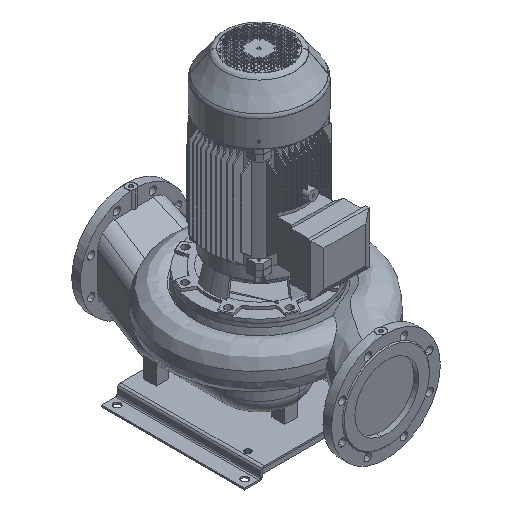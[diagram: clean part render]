
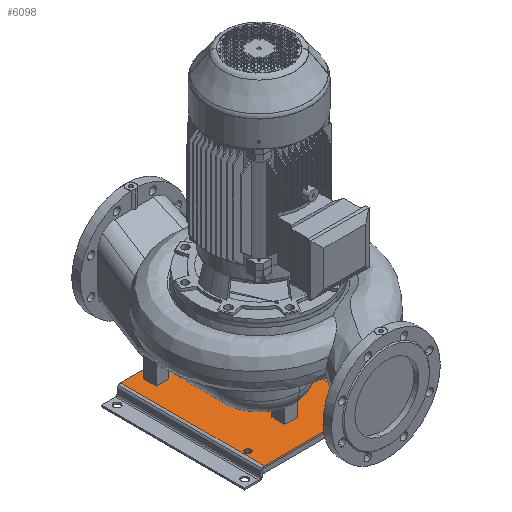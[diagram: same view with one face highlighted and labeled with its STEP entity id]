
A CAD part, isometric view. The second image highlights one B-rep face of the part: STEP entity #6098.
In plain terms, the highlighted planar face has unit normal (0, 0, 1) as drawn and (0, 1, 0) by its records, which use the part's own axes.
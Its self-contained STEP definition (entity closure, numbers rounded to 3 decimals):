
#6098=ADVANCED_FACE('',(#16713,#16714,#16715,#16716,#16717,#16718),#16719,.T.);
#6142=EDGE_CURVE('',#16793,#16794,#16795,.T.);
#16713=FACE_BOUND('',#33698,.T.);
#16714=FACE_BOUND('',#33699,.T.);
#16715=FACE_BOUND('',#33700,.T.);
#16716=FACE_BOUND('',#33701,.T.);
#16717=FACE_BOUND('',#33702,.T.);
#16718=FACE_OUTER_BOUND('',#33703,.T.);
#16719=PLANE('',#33704);
#16793=VERTEX_POINT('',#33787);
#16794=VERTEX_POINT('',#33788);
#16795=LINE('',#33789,#33790);
#33698=EDGE_LOOP('',(#57529,#57530));
#33699=EDGE_LOOP('',(#57531,#57532));
#33700=EDGE_LOOP('',(#57533,#57534));
#33701=EDGE_LOOP('',(#57535,#57536));
#33702=EDGE_LOOP('',(#57537,#57538));
#33703=EDGE_LOOP('',(#57539,#57540,#57541,#57542));
#33704=AXIS2_PLACEMENT_3D('',#57543,#57544,#57545);
#33787=CARTESIAN_POINT('',(389.0,35.,0.0));
#33788=CARTESIAN_POINT('',(61.0,35.0,0.0));
#33789=CARTESIAN_POINT('',(99.43,35.0,0.0));
#33790=VECTOR('',#57744,1.0);
#57529=ORIENTED_EDGE('',*,*,#77678,.T.);
#57530=ORIENTED_EDGE('',*,*,#77691,.T.);
#57531=ORIENTED_EDGE('',*,*,#77673,.T.);
#57532=ORIENTED_EDGE('',*,*,#77694,.T.);
#57533=ORIENTED_EDGE('',*,*,#77663,.T.);
#57534=ORIENTED_EDGE('',*,*,#77700,.T.);
#57535=ORIENTED_EDGE('',*,*,#77653,.T.);
#57536=ORIENTED_EDGE('',*,*,#77706,.T.);
#57537=ORIENTED_EDGE('',*,*,#77643,.T.);
#57538=ORIENTED_EDGE('',*,*,#77712,.T.);
#57539=ORIENTED_EDGE('',*,*,#77728,.F.);
#57540=ORIENTED_EDGE('',*,*,#77729,.T.);
#57541=ORIENTED_EDGE('',*,*,#77624,.F.);
#57542=ORIENTED_EDGE('',*,*,#6142,.T.);
#57543=CARTESIAN_POINT('',(249.715,35.0,0.0));
#57544=DIRECTION('',(0.,1.0,0.0));
#57545=DIRECTION('',(-1.0,0.,-0.0));
#57744=DIRECTION('',(-1.0,0.,0.0));
#77624=EDGE_CURVE('',#16793,#81800,#81801,.T.);
#77643=EDGE_CURVE('',#81831,#81828,#81832,.T.);
#77653=EDGE_CURVE('',#81849,#81846,#81850,.T.);
#77663=EDGE_CURVE('',#81867,#81864,#81868,.T.);
#77673=EDGE_CURVE('',#81885,#81882,#81886,.T.);
#77678=EDGE_CURVE('',#81894,#81891,#81895,.T.);
#77691=EDGE_CURVE('',#81891,#81894,#81913,.T.);
#77694=EDGE_CURVE('',#81882,#81885,#81916,.T.);
#77700=EDGE_CURVE('',#81864,#81867,#81922,.T.);
#77706=EDGE_CURVE('',#81846,#81849,#81928,.T.);
#77712=EDGE_CURVE('',#81828,#81831,#81934,.T.);
#77728=EDGE_CURVE('',#81956,#16794,#81957,.T.);
#77729=EDGE_CURVE('',#81956,#81800,#81958,.T.);
#81800=VERTEX_POINT('',#88485);
#81801=LINE('',#88486,#88487);
#81828=VERTEX_POINT('',#88520);
#81831=VERTEX_POINT('',#88524);
#81832=CIRCLE('',#88525,9.5);
#81846=VERTEX_POINT('',#88542);
#81849=VERTEX_POINT('',#88546);
#81850=CIRCLE('',#88547,9.5);
#81864=VERTEX_POINT('',#88564);
#81867=VERTEX_POINT('',#88568);
#81868=CIRCLE('',#88569,9.5);
#81882=VERTEX_POINT('',#88586);
#81885=VERTEX_POINT('',#88590);
#81886=CIRCLE('',#88591,9.5);
#81891=VERTEX_POINT('',#88597);
#81894=VERTEX_POINT('',#88601);
#81895=CIRCLE('',#88602,9.5);
#81913=CIRCLE('',#88623,9.5);
#81916=CIRCLE('',#88626,9.5);
#81922=CIRCLE('',#88632,9.5);
#81928=CIRCLE('',#88638,9.5);
#81934=CIRCLE('',#88644,9.5);
#81956=VERTEX_POINT('',#88676);
#81957=LINE('',#88677,#88678);
#81958=LINE('',#88679,#88680);
#88485=CARTESIAN_POINT('',(389.0,35.0,450.0));
#88486=CARTESIAN_POINT('',(389.0,35.0,0.0));
#88487=VECTOR('',#99197,1.0);
#88520=CARTESIAN_POINT('',(135.402,35.0,39.727));
#88524=CARTESIAN_POINT('',(119.598,35.0,50.273));
#88525=AXIS2_PLACEMENT_3D('',#99226,#99227,#99228);
#88542=CARTESIAN_POINT('',(375.0,35.0,375.5));
#88546=CARTESIAN_POINT('',(375.0,35.0,394.5));
#88547=AXIS2_PLACEMENT_3D('',#99242,#99243,#99244);
#88564=CARTESIAN_POINT('',(75.,35.0,375.5));
#88568=CARTESIAN_POINT('',(75.,35.0,394.5));
#88569=AXIS2_PLACEMENT_3D('',#99258,#99259,#99260);
#88586=CARTESIAN_POINT('',(225.0,35.0,359.5));
#88590=CARTESIAN_POINT('',(225.0,35.0,340.5));
#88591=AXIS2_PLACEMENT_3D('',#99274,#99275,#99276);
#88597=CARTESIAN_POINT('',(314.598,35.0,39.727));
#88601=CARTESIAN_POINT('',(330.402,35.0,50.273));
#88602=AXIS2_PLACEMENT_3D('',#99282,#99283,#99284);
#88623=AXIS2_PLACEMENT_3D('',#99306,#99307,#99308);
#88626=AXIS2_PLACEMENT_3D('',#99312,#99313,#99314);
#88632=AXIS2_PLACEMENT_3D('',#99324,#99325,#99326);
#88638=AXIS2_PLACEMENT_3D('',#99336,#99337,#99338);
#88644=AXIS2_PLACEMENT_3D('',#99348,#99349,#99350);
#88676=CARTESIAN_POINT('',(61.0,35.0,450.0));
#88677=CARTESIAN_POINT('',(61.0,35.0,0.0));
#88678=VECTOR('',#99361,1.0);
#88679=CARTESIAN_POINT('',(99.43,35.0,450.0));
#88680=VECTOR('',#99362,1.0);
#99197=DIRECTION('',(0.0,0.0,1.0));
#99226=CARTESIAN_POINT('',(127.5,35.0,45.0));
#99227=DIRECTION('',(0.,-1.0,0.0));
#99228=DIRECTION('',(0.832,0.,-0.555));
#99242=CARTESIAN_POINT('',(375.0,35.0,385.0));
#99243=DIRECTION('',(0.,-1.0,0.0));
#99244=DIRECTION('',(0.0,0.0,-1.0));
#99258=CARTESIAN_POINT('',(75.,35.0,385.0));
#99259=DIRECTION('',(0.,-1.0,0.0));
#99260=DIRECTION('',(0.0,0.0,-1.0));
#99274=CARTESIAN_POINT('',(225.0,35.0,350.0));
#99275=DIRECTION('',(0.,-1.0,0.0));
#99276=DIRECTION('',(0.0,0.0,1.0));
#99282=CARTESIAN_POINT('',(322.5,35.0,45.0));
#99283=DIRECTION('',(0.,-1.0,0.0));
#99284=DIRECTION('',(-0.832,0.,-0.555));
#99306=CARTESIAN_POINT('',(322.5,35.0,45.0));
#99307=DIRECTION('',(0.,-1.0,0.0));
#99308=DIRECTION('',(-0.832,0.,-0.555));
#99312=CARTESIAN_POINT('',(225.0,35.0,350.0));
#99313=DIRECTION('',(0.,-1.0,0.0));
#99314=DIRECTION('',(0.0,0.0,1.0));
#99324=CARTESIAN_POINT('',(75.,35.0,385.0));
#99325=DIRECTION('',(0.,-1.0,0.0));
#99326=DIRECTION('',(0.0,0.0,-1.0));
#99336=CARTESIAN_POINT('',(375.0,35.0,385.0));
#99337=DIRECTION('',(0.,-1.0,0.0));
#99338=DIRECTION('',(0.0,0.0,-1.0));
#99348=CARTESIAN_POINT('',(127.5,35.0,45.0));
#99349=DIRECTION('',(0.,-1.0,0.0));
#99350=DIRECTION('',(0.832,0.,-0.555));
#99361=DIRECTION('',(-0.0,-0.0,-1.0));
#99362=DIRECTION('',(1.0,0.,0.0));
